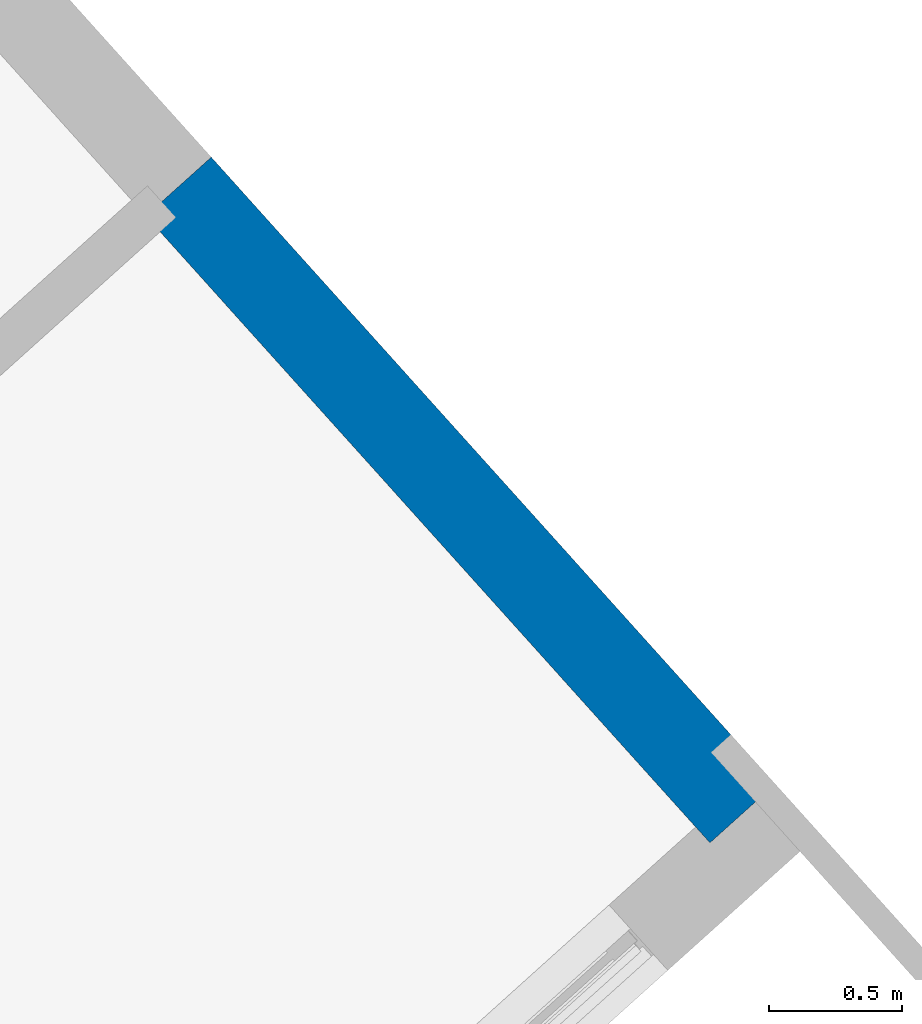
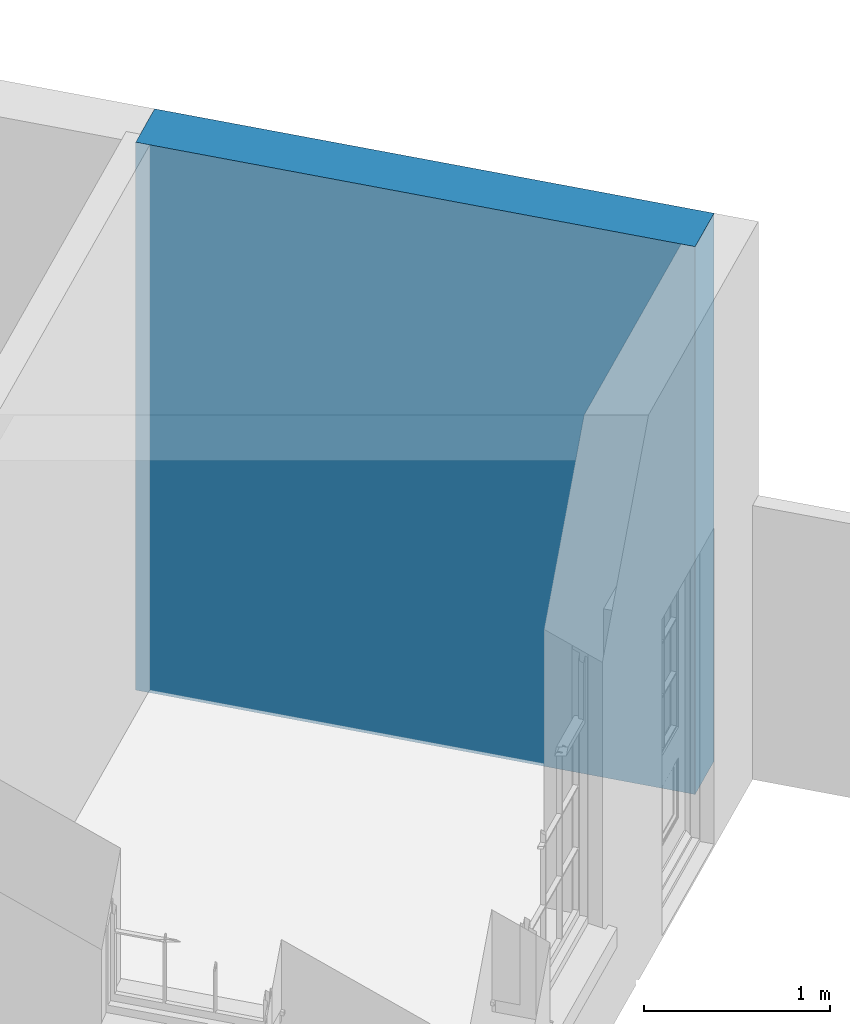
# One storey, part 3 of 6: 1 wall.
"""IFC4 building model written with IfcOpenShell, lengths in metres."""

from ifc_helpers import new_model, si_unit, frame, origin_with_axes, place, context, subcontext, project, spatial, polyline, outline, extrude, material, layer, layer_set, layer_usage, type_object, element, save


model = new_model("IFC4")

# Units and contexts
model_context = context("Model", 3, world=origin_with_axes())
body_context = subcontext(model_context, "Body", "Model", "MODEL_VIEW")
ifc_project = project(units=[si_unit("PLANEANGLEUNIT", "RADIAN"), si_unit("MASSUNIT", "GRAM", prefix="KILO"), si_unit("FORCEUNIT", "NEWTON", prefix="KILO"), si_unit("LENGTHUNIT", "METRE"), si_unit("AREAUNIT", "SQUARE_METRE"), si_unit("VOLUMEUNIT", "CUBIC_METRE")], contexts=[model_context, model_context])

# Sites, building, storey
site_1_placement = place(None, origin_with_axes())
site_1 = spatial("IfcSite", under=ifc_project, at=site_1_placement, Name="Tamar")
site_2_placement = place(site_1_placement, origin_with_axes())
site_2 = spatial("IfcSite", under=site_1, at=site_2_placement, Name="Site plot-6", CompositionType="ELEMENT")
building_placement = place(None, origin_with_axes())
building = spatial("IfcBuilding", under=site_2, at=building_placement, Name="Building plot-6", CompositionType="ELEMENT")
storey_placement = place(None, frame((0.0, 0.0, 24.5), z_axis=(0.0, 0.0, 1.0), x_axis=(1.0, 0.0, 0.0)))
storey = spatial("IfcBuildingStorey", under=building, at=storey_placement, Name="plot-6 0", CompositionType="ELEMENT", Elevation=24.5)

# Wall
ifc_material = material(Name="Masonry")
ifc_layer = layer(ifc_material, 0.33, ventilated=False)
ifc_layer_set = layer_set([ifc_layer], Name="party_0.08_0.25")
ifc_layer_usage = layer_usage(ifc_layer_set, "AXIS2", "POSITIVE", -0.25)
wall_type = type_object("IfcWallType", Name="party_0.08_0.25", PredefinedType="SOLIDWALL", material=ifc_layer_set)
wall_placement = place(storey_placement, frame((240.655799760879, 280.621383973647, 0.0), z_axis=(0.0, 0.0, 1.0), x_axis=(-0.668853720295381, 0.743394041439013, 0.0)))
element("IfcWall", 1, at=wall_placement, inside=storey, type_object=wall_type, material=ifc_layer_usage, Name="party", context=body_context, shape_type="SweptSolid", body=[
    extrude(outline(polyline([(-2.09120248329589e-15, 0.080000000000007), (-6.97909697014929e-15, -0.250000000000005), (3.16673048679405, -0.250000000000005), (3.16673048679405, 0.0800000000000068), (-2.09120248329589e-15, 0.080000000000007)])), origin_with_axes(), (0.0, 0.0, 1.0), 3.6),
])

save(model, "model.ifc")
